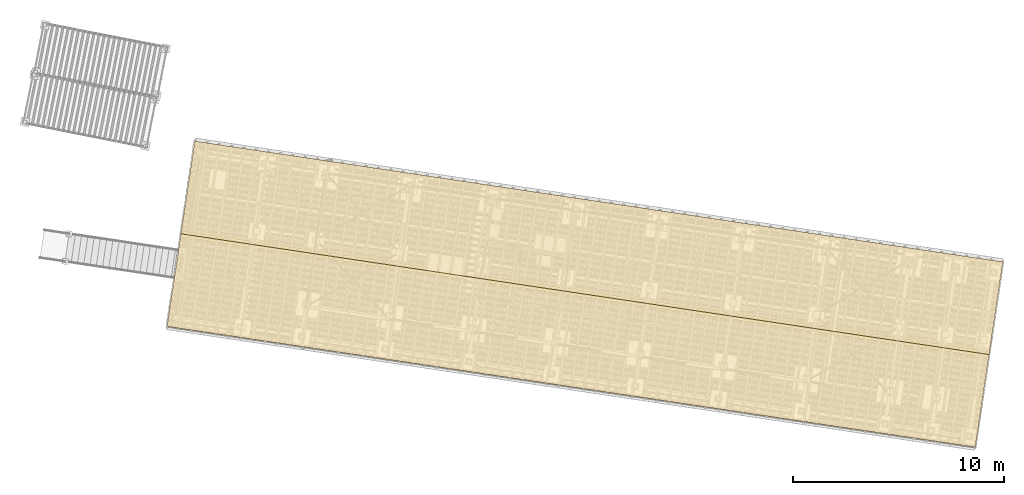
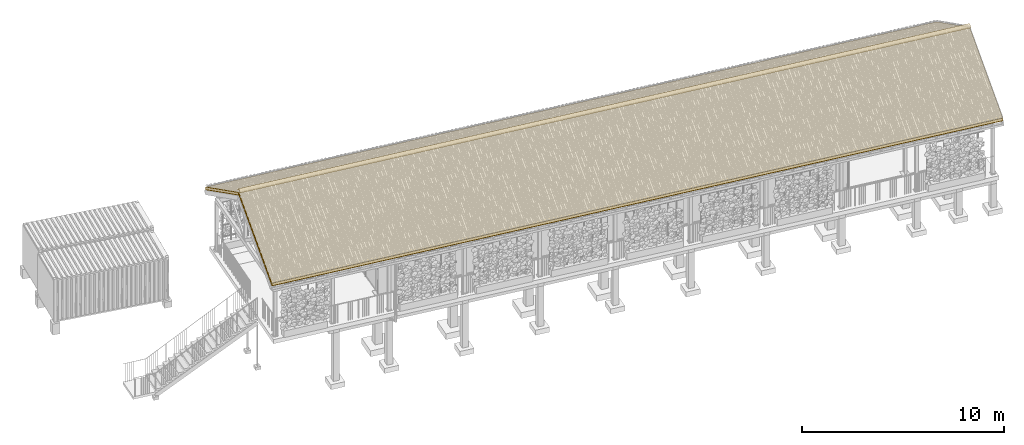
# One storey, part 128 of 131: 7 coverings, 1 element without a shape of its own.
"""IFC4 building model written with IfcOpenShell, lengths in metres."""

import ifcopenshell
import ifcopenshell.guid

model = None  # the IFC model being written
_history = None  # IfcOwnerHistory: only IFC2X3 demands one
_inside = {}  # id of a spatial element -> (the spatial element, [elements in it])
_under = {}  # id of a project, library or spatial element -> (it, [spatial elements below it])
_declared = {}  # id of a project -> (the project, [libraries it declares])
_typed = {}  # id of a type object -> (the type object, [elements of that type])
_made_of = {}  # id of a material, layer set ... -> (it, [elements and type objects made of it])


def new_model(schema):
    """Start an empty IFC model of exactly this schema.

    Asked for "IFC4X3", IfcOpenShell would pick the latest addendum, in which some entities
    have other attributes; the version numbers below select the first issue.
    IFC2X3 requires an IfcOwnerHistory on every rooted entity: one is made here for all.
    """
    global model, _history
    if schema == "IFC4X3":
        model = ifcopenshell.file(schema_version=(4, 3, 0, 0))
    else:
        model = ifcopenshell.file(schema=schema)
    _inside.clear()
    _under.clear()
    _declared.clear()
    _typed.clear()
    _made_of.clear()
    _history = None
    if model.schema == "IFC2X3":
        org = make("IfcOrganization", Name="unknown")
        user = make(
            "IfcPersonAndOrganization",
            ThePerson=make("IfcPerson", FamilyName="unknown"),
            TheOrganization=org,
        )
        app = make(
            "IfcApplication",
            ApplicationDeveloper=org,
            Version="unknown",
            ApplicationFullName="unknown",
            ApplicationIdentifier="unknown",
        )
        _history = make(
            "IfcOwnerHistory",
            OwningUser=user,
            OwningApplication=app,
            ChangeAction="ADDED",
            CreationDate=0,
        )
    return model


def make(cls, **values):
    """One entity of the class cls with the attributes given. An attribute that is None is left unset."""
    return model.create_entity(
        cls, **{name: value for name, value in values.items() if value is not None}
    )


def rooted(cls, **values):
    """An entity with a GlobalId (a new one), such as an element, a storey or a relation."""
    return make(cls, GlobalId=ifcopenshell.guid.new(), OwnerHistory=_history, **values)


def si_unit(unit_type, name, prefix=None):
    """IfcSIUnit, for example si_unit("LENGTHUNIT", "METRE", prefix="MILLI")."""
    return make("IfcSIUnit", UnitType=unit_type, Prefix=prefix, Name=name)


def assignment(units):
    """IfcUnitAssignment: the units of a project."""
    return None if units is None else make("IfcUnitAssignment", Units=units)


def point(xyz):
    """IfcCartesianPoint."""
    return None if xyz is None else make("IfcCartesianPoint", Coordinates=xyz)


def direction(xyz):
    """IfcDirection."""
    return None if xyz is None else make("IfcDirection", DirectionRatios=xyz)


def frame(location, z_axis=None, x_axis=None):
    """IfcAxis2Placement3D, a coordinate frame: its origin and axes. An axis left out is left unset."""
    return make(
        "IfcAxis2Placement3D",
        Location=point(location),
        Axis=direction(z_axis),
        RefDirection=direction(x_axis),
    )


def origin_with_axes():
    """The frame at (0, 0, 0) with the z axis (0, 0, 1) and the x axis (1, 0, 0) written out."""
    return frame((0.0, 0.0, 0.0), z_axis=(0.0, 0.0, 1.0), x_axis=(1.0, 0.0, 0.0))


def place(relative_to, where):
    """IfcLocalPlacement: puts the frame where relative to a parent placement (None: the world)."""
    return make(
        "IfcLocalPlacement", PlacementRelTo=relative_to, RelativePlacement=where
    )


def context(
    kind, dimensions, precision=None, world=None, true_north=None, identifier=None
):
    """IfcGeometricRepresentationContext, for example the 3D "Model" context."""
    return make(
        "IfcGeometricRepresentationContext",
        ContextIdentifier=identifier,
        ContextType=kind,
        CoordinateSpaceDimension=dimensions,
        Precision=precision,
        WorldCoordinateSystem=world,
        TrueNorth=true_north,
    )


def subcontext(parent, identifier, kind, view, scale=None):
    """IfcGeometricRepresentationSubContext, for example "Body" below "Model"."""
    return make(
        "IfcGeometricRepresentationSubContext",
        ContextIdentifier=identifier,
        ContextType=kind,
        ParentContext=parent,
        TargetScale=scale,
        TargetView=view,
    )


def project(units=None, contexts=None):
    """IfcProject with its units and contexts."""
    return rooted(
        "IfcProject",
        Name="project",
        RepresentationContexts=contexts,
        UnitsInContext=assignment(units),
    )


def spatial(cls, under=None, at=None, **own):
    """A site, building, storey or space (cls), placed at a placement, below another one or the project."""
    s = rooted(cls, ObjectPlacement=at, **own)
    if under is not None:
        _under.setdefault(under.id(), (under, []))[1].append(s)
    return s


def polyline(points):
    """IfcPolyline through the points."""
    return make("IfcPolyline", Points=[point(p) for p in points])


def outline(outer, holes=None, kind="AREA"):
    """IfcArbitraryClosedProfileDef: a profile drawn as a closed curve; with holes, ...WithVoids."""
    if holes is None:
        return make("IfcArbitraryClosedProfileDef", ProfileType=kind, OuterCurve=outer)
    return make(
        "IfcArbitraryProfileDefWithVoids",
        ProfileType=kind,
        OuterCurve=outer,
        InnerCurves=holes,
    )


def extrude(swept, where, along, depth):
    """IfcExtrudedAreaSolid: the profile swept, set in the frame where, extruded along a direction by depth."""
    return make(
        "IfcExtrudedAreaSolid",
        SweptArea=swept,
        Position=where,
        ExtrudedDirection=direction(along),
        Depth=depth,
    )


def shape(context_of_items, identifier, shape_type, items):
    """IfcShapeRepresentation: the items that make up one representation, for example the "Body"."""
    return make(
        "IfcShapeRepresentation",
        ContextOfItems=context_of_items,
        RepresentationIdentifier=identifier,
        RepresentationType=shape_type,
        Items=items,
    )


def material(Name=None, Category=None):
    """IfcMaterial."""
    return make("IfcMaterial", Name=Name, Category=Category)


def made_of(thing, what):
    """Note that an element or type object is made of a material, layer set ...; save() writes the relation."""
    if what is not None:
        _made_of.setdefault(what.id(), (what, []))[1].append(thing)
    return thing


def element(
    cls,
    number,
    at=None,
    inside=None,
    cuts=None,
    type_object=None,
    material=None,
    context=None,
    identifier="Body",
    shape_type=None,
    held_by="IfcProductDefinitionShape",
    body=None,
    shapes=None,
    **own,
):
    """One element of the class cls, such as IfcWall. Its Tag is "e" and its number.

    at: its placement. inside: the storey or other place that contains it. cuts: it is an
    opening in that element (IfcRelVoidsElement). A single representation is given by context,
    identifier, shape_type and body (its items); several are given by shapes. held_by: the class
    of the entity that holds the representations. save() writes the other relations.
    """
    e = rooted(cls, Tag="e%d" % number, ObjectPlacement=at, **own)
    if body is not None:
        shapes = [shape(context, identifier, shape_type, body)]
    if shapes is not None:
        e.Representation = make(held_by, Representations=shapes)
    if inside is not None:
        _inside.setdefault(inside.id(), (inside, []))[1].append(e)
    if cuts is not None:
        rooted(
            "IfcRelVoidsElement", RelatingBuildingElement=cuts, RelatedOpeningElement=e
        )
    if type_object is not None:
        _typed.setdefault(type_object.id(), (type_object, []))[1].append(e)
    return made_of(e, material)


def aggregate(whole, parts):
    """IfcRelAggregates: a whole, such as a stair, and the parts it consists of."""
    return rooted("IfcRelAggregates", RelatingObject=whole, RelatedObjects=parts)


def save(model, path):
    """Write the relations noted so far, then the file.

    IfcRelAggregates (storeys below a building ...), IfcRelContainedInSpatialStructure (elements
    in a storey), IfcRelDefinesByType, IfcRelAssociatesMaterial and IfcRelDeclares: one each for
    every whole, place, type object, material and project.
    """
    for whole, parts in _under.values():
        aggregate(whole, parts)
    for where, things in _inside.values():
        rooted(
            "IfcRelContainedInSpatialStructure",
            RelatedElements=things,
            RelatingStructure=where,
        )
    for kind, things in _typed.values():
        rooted("IfcRelDefinesByType", RelatedObjects=things, RelatingType=kind)
    for what, things in _made_of.values():
        rooted("IfcRelAssociatesMaterial", RelatedObjects=things, RelatingMaterial=what)
    for by, libraries in _declared.values():
        rooted("IfcRelDeclares", RelatingContext=by, RelatedDefinitions=libraries)
    model.write(path)


model = new_model("IFC4")

# Units and contexts
model_context = context("Model", 3, precision=1e-05, world=origin_with_axes(), true_north=direction((0.0, 1.0)))
body_context = subcontext(model_context, "Body", "Model", "MODEL_VIEW")
ifc_project = project(units=[si_unit("VOLUMEUNIT", "CUBIC_METRE"), si_unit("LENGTHUNIT", "METRE"), si_unit("AREAUNIT", "SQUARE_METRE")], contexts=[model_context])

# Site, building, storey
site_placement = place(None, origin_with_axes())
site = spatial("IfcSite", under=ifc_project, at=site_placement, Name="Lares · Rua das Mercês · artigo 4771")
building_placement = place(site_placement, frame((15.0, 9.7, 15.8), z_axis=(0.0, 0.0, 1.0), x_axis=(0.989015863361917, -0.147809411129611, 0.0)))
building = spatial("IfcBuilding", under=site, at=building_placement, Name="Casa Sobreposta")
storey_placement = place(building_placement, origin_with_axes())
storey = spatial("IfcBuildingStorey", under=building, at=storey_placement, Name="00 · Habitação e estacionamento", Elevation=15.8)

# Roof, coverings
ifc_material_1 = material(Name="Madeira / Bauholz", Category="wood")
roof_placement = place(storey_placement, origin_with_axes())
roof = element("IfcRoof", 1, at=roof_placement, inside=storey, material=ifc_material_1, Name="Cobertura de telha · duas águas 30 graus", PredefinedType="GABLE_ROOF")
covering_1_placement = place(roof_placement, frame((-6.4, 0.0, 0.0), z_axis=(1.0, 0.0, 0.0), x_axis=(0.0, 1.0, 0.0)))
covering_1 = element("IfcCovering", 2, at=covering_1_placement, material=ifc_material_1, Name="Cobertura · forro de madeira", PredefinedType="CLADDING", context=body_context, shape_type="SweptSolid", body=[
    extrude(outline(polyline([(-1.9, 3.32), (2.55, 5.88920869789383), (2.55, 5.90920869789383), (-1.9, 3.34), (-1.9, 3.32)])), origin_with_axes(), (0.0, 0.0, 1.0), 38.8),
])
ifc_material_2 = material(Name="Lã mineral / Mineralwolle 2", Category="mineral wool")
covering_2_placement = place(roof_placement, frame((-6.4, 0.0, 0.0), z_axis=(1.0, 0.0, 0.0), x_axis=(0.0, 1.0, 0.0)))
covering_2 = element("IfcCovering", 3, at=covering_2_placement, material=ifc_material_2, Name="Cobertura · isolamento", PredefinedType="INSULATION", context=body_context, shape_type="SweptSolid", body=[
    extrude(outline(polyline([(-1.9, 3.34), (2.55, 5.90920869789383), (2.55, 6.06920869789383), (-1.9, 3.5), (-1.9, 3.34)])), origin_with_axes(), (0.0, 0.0, 1.0), 38.8),
])
ifc_material_3 = material(Name="Membrana impermeável — hipótese", Category="membrane")
covering_3_placement = place(roof_placement, frame((-6.4, 0.0, 0.0), z_axis=(1.0, 0.0, 0.0), x_axis=(0.0, 1.0, 0.0)))
covering_3 = element("IfcCovering", 4, at=covering_3_placement, material=ifc_material_3, Name="Cobertura · membrana", PredefinedType="MEMBRANE", context=body_context, shape_type="SweptSolid", body=[
    extrude(outline(polyline([(-1.9, 3.5), (2.55, 6.06920869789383), (2.55, 6.07320869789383), (-1.9, 3.504), (-1.9, 3.5)])), origin_with_axes(), (0.0, 0.0, 1.0), 38.8),
])
covering_4_placement = place(roof_placement, frame((-6.4, 0.0, 0.0), z_axis=(1.0, 0.0, 0.0), x_axis=(0.0, 1.0, 0.0)))
covering_4 = element("IfcCovering", 5, at=covering_4_placement, material=ifc_material_1, Name="Cobertura · forro de madeira", PredefinedType="CLADDING", context=body_context, shape_type="SweptSolid", body=[
    extrude(outline(polyline([(2.55, 5.88920869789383), (7.0, 3.32), (7.0, 3.34), (2.55, 5.90920869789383), (2.55, 5.88920869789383)])), origin_with_axes(), (0.0, 0.0, 1.0), 38.8),
])
covering_5_placement = place(roof_placement, frame((-6.4, 0.0, 0.0), z_axis=(1.0, 0.0, 0.0), x_axis=(0.0, 1.0, 0.0)))
covering_5 = element("IfcCovering", 6, at=covering_5_placement, material=ifc_material_2, Name="Cobertura · isolamento", PredefinedType="INSULATION", context=body_context, shape_type="SweptSolid", body=[
    extrude(outline(polyline([(2.55, 5.90920869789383), (7.0, 3.34), (7.0, 3.5), (2.55, 6.06920869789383), (2.55, 5.90920869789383)])), origin_with_axes(), (0.0, 0.0, 1.0), 38.8),
])
covering_6_placement = place(roof_placement, frame((-6.4, 0.0, 0.0), z_axis=(1.0, 0.0, 0.0), x_axis=(0.0, 1.0, 0.0)))
covering_6 = element("IfcCovering", 7, at=covering_6_placement, material=ifc_material_3, Name="Cobertura · membrana", PredefinedType="MEMBRANE", context=body_context, shape_type="SweptSolid", body=[
    extrude(outline(polyline([(2.55, 6.06920869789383), (7.0, 3.5), (7.0, 3.504), (2.55, 6.07320869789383), (2.55, 6.06920869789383)])), origin_with_axes(), (0.0, 0.0, 1.0), 38.8),
])
ifc_material_4 = material(Name="Telha cerâmica · tile1", Category="clay")
covering_7_placement = place(roof_placement, frame((-6.4, 0.0, 0.0), z_axis=(1.0, 0.0, 0.0), x_axis=(0.0, 1.0, 0.0)))
covering_7 = element("IfcCovering", 8, at=covering_7_placement, material=ifc_material_4, Name="Cobertura · cumeeira cerâmica", PredefinedType="ROOFING", context=body_context, shape_type="SweptSolid", body=[
    extrude(outline(polyline([(2.7, 6.12420869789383), (2.69392394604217, 6.16646858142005), (2.67618802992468, 6.20530482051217), (2.64822911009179, 6.23757113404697), (2.61231225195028, 6.26065349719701), (2.57134722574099, 6.27268191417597), (2.52865277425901, 6.27268191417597), (2.48768774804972, 6.26065349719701), (2.45177088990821, 6.23757113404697), (2.42381197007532, 6.20530482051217), (2.40607605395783, 6.16646858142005), (2.4, 6.12420869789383), (2.415, 6.12420869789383), (2.42046844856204, 6.16224259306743), (2.43643077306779, 6.19719520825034), (2.46159380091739, 6.22623489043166), (2.49391897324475, 6.24700901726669), (2.53078749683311, 6.25783459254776), (2.56921250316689, 6.25783459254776), (2.60608102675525, 6.24700901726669), (2.63840619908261, 6.22623489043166), (2.66356922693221, 6.19719520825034), (2.67953155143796, 6.16224259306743), (2.685, 6.12420869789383), (2.7, 6.12420869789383)])), origin_with_axes(), (0.0, 0.0, 1.0), 38.8),
])
aggregate(roof, [covering_1, covering_2, covering_3, covering_4, covering_5, covering_6, covering_7])

save(model, "model.ifc")
